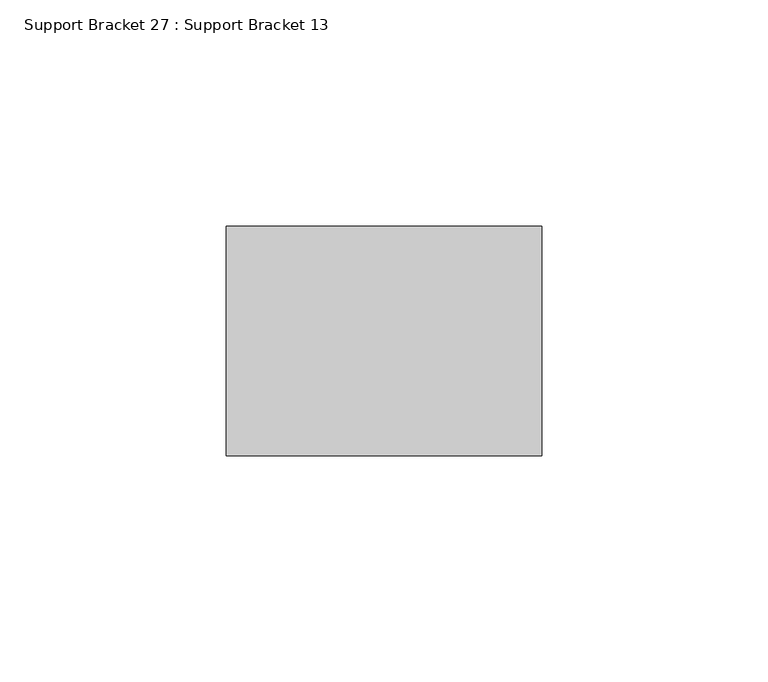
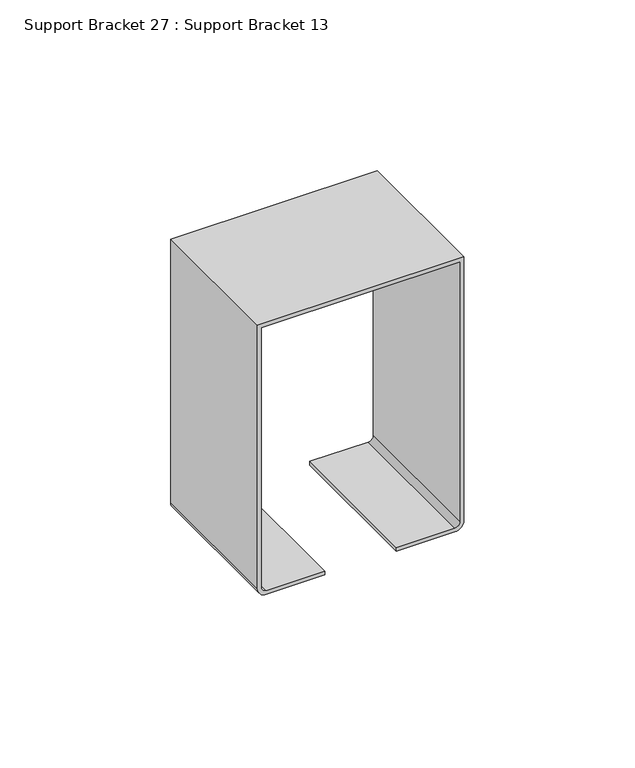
"""IFC4 building model written with IfcOpenShell, lengths in millimetres: proxy geometry, Support Bracket 27 : Support Bracket 13."""

from ifc_helpers import new_model, si_unit, point, frame, frame_2d, origin, place, context, project, spatial, polyline, circle_curve, trimmed, segment, composite_curve, outline, extrude, source, transform, mapped, element, save


def support_bracket_27_support_bracket_13_70b3b304(model_context):
    return source(origin(), model_context, "Body", "SweptSolid", [
        extrude(outline(composite_curve([segment(polyline([(920.623, 11742.5938902), (1014.8371562, 11742.5938902), (1014.8371562, 11672.7438902), (920.623, 11672.7438902)]), True, "CONTINUOUS"), segment(trimmed(circle_curve(frame_2d((920.623, 11675.7918902)), 3.048), [point((920.623, 11672.7438902))], [point((917.575, 11675.7918902))], False, "CARTESIAN"), True, "CONTINUOUS"), segment(polyline([(917.575, 11675.7918902), (917.575, 11695.5642027), (918.8648437, 11695.5642027), (918.8648437, 11675.7918902)]), True, "CONTINUOUS"), segment(trimmed(circle_curve(frame_2d((920.623, 11675.7918902)), 1.7581563), [point((918.8648437, 11675.7918902))], [point((920.623, 11674.033734))], True, "CARTESIAN"), True, "CONTINUOUS"), segment(polyline([(920.623, 11674.033734), (1013.5473125, 11674.033734), (1013.5473125, 11741.3040465), (920.623, 11741.3040465)]), True, "CONTINUOUS"), segment(trimmed(circle_curve(frame_2d((920.623, 11739.5458902)), 1.7581563), [point((920.623, 11741.3040465))], [point((918.8648437, 11739.5458902))], True, "CARTESIAN"), True, "CONTINUOUS"), segment(polyline([(918.8648437, 11739.5458902), (918.8648437, 11719.7735777), (917.575, 11719.7735777), (917.575, 11739.5458902)]), True, "CONTINUOUS"), segment(trimmed(circle_curve(frame_2d((920.623, 11739.5458902)), 3.048), [point((917.575, 11739.5458902))], [point((920.623, 11742.5938902))], False, "CARTESIAN"), True, "CONTINUOUS")], self_intersect=False)), frame((0.0, 1061.2182928, 0.0), z_axis=(0.0, 1.0, 0.0), x_axis=(0.0, 0.0, 1.0)), (0.0, 0.0, 1.0), 50.8),
    ])


if __name__ == "__main__":
    model = new_model("IFC4")
    model_context = context("Model", 3, world=origin())
    ifc_project = project(units=[si_unit("LENGTHUNIT", "METRE", prefix="MILLI")], contexts=[model_context])
    site = spatial("IfcSite", under=ifc_project)
    building = spatial("IfcBuilding", under=site)
    placement = place(None, origin())
    support_bracket_27_support_bracket_13_shape = support_bracket_27_support_bracket_13_70b3b304(model_context)
    element("IfcBuildingElementProxy", 1, Name="Support Bracket 27 : Support Bracket 13", ObjectType="Support Bracket 27 : Support Bracket 13", at=placement, inside=building, context=model_context, shape_type="MappedRepresentation", body=[
        mapped(support_bracket_27_support_bracket_13_shape, transform((0.0, 0.0, 0.0), x_axis=(1.0, 0.0, 0.0), y_axis=(0.0, 1.0, 0.0), z_axis=(0.0, 0.0, 1.0))),
    ])
    save(model, "model.ifc")
